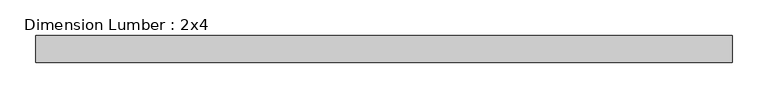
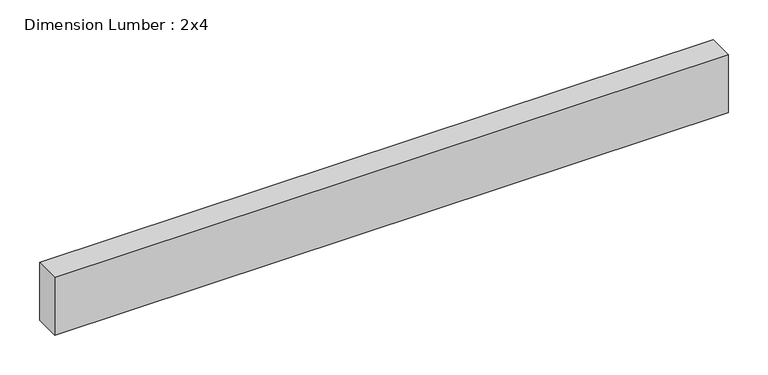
"""IFC4 building model written with IfcOpenShell, lengths in millimetres: beam geometry, Dimension Lumber : 2x4."""

from ifc_helpers import new_model, si_unit, frame, origin, place, context, project, spatial, polyline, outline, extrude, source, transform, mapped, element, save


def dimension_lumber_2x4_869804c6(model_context):
    return source(origin(), model_context, "Body", "SweptSolid", [
        extrude(outline(polyline([(489.3466634, 19.05), (489.3466634, -19.05), (-489.3466634, -19.05), (-489.3466634, 19.05), (489.3466634, 19.05)])), frame((0.0, 0.0, -44.45), z_axis=(0.0, 0.0, 1.0), x_axis=(1.0, 0.0, 0.0)), (0.0, 0.0, 1.0), 88.9),
    ])


if __name__ == "__main__":
    model = new_model("IFC4")
    model_context = context("Model", 3, world=origin())
    ifc_project = project(units=[si_unit("LENGTHUNIT", "METRE", prefix="MILLI")], contexts=[model_context])
    site = spatial("IfcSite", under=ifc_project)
    building = spatial("IfcBuilding", under=site)
    placement = place(None, origin())
    dimension_lumber_2x4_shape = dimension_lumber_2x4_869804c6(model_context)
    element("IfcBeam", 1, ObjectType="Dimension Lumber : 2x4", at=placement, inside=building, context=model_context, shape_type="MappedRepresentation", body=[
        mapped(dimension_lumber_2x4_shape, transform((0.0, 0.0, 0.0), x_axis=(1.0, 0.0, 0.0), y_axis=(0.0, 1.0, 0.0), z_axis=(0.0, 0.0, 1.0))),
    ])
    save(model, "model.ifc")
